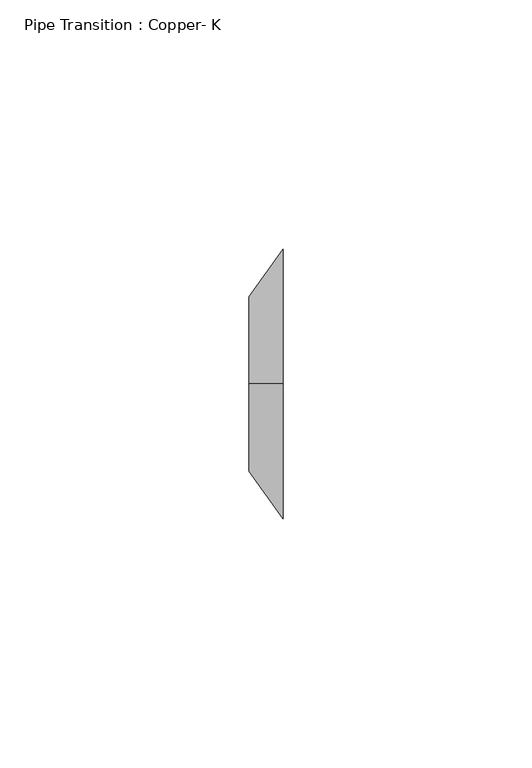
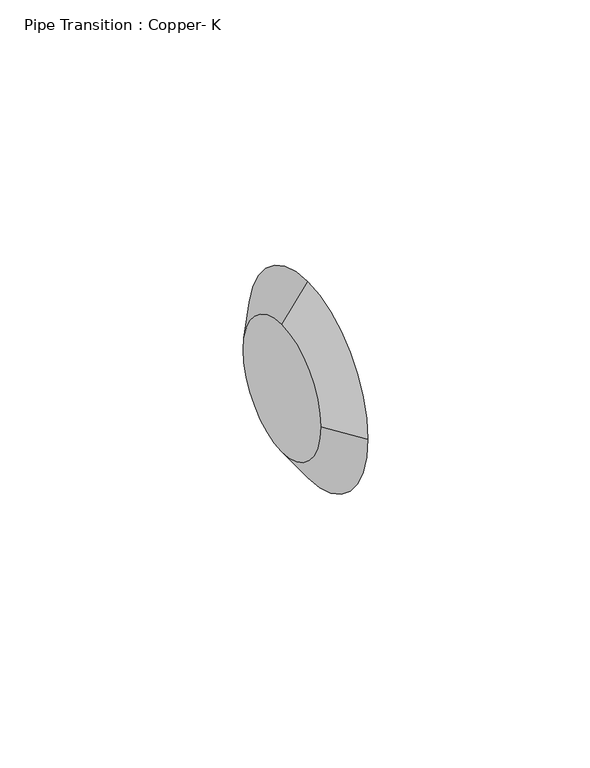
"""IFC4 building model written with IfcOpenShell, lengths in millimetres: pipe fitting geometry, Pipe Transition : Copper- K."""

from ifc_helpers import new_model, si_unit, frame, origin, place, context, project, spatial, polyline, circle_curve, source, transform, mapped, element, save
from ifc_brep_helpers import plane_surface, revolved_surface, advanced_brep


def pipe_transition_copper_k_b52e50c0(model_context):
    return source(origin(), model_context, "Body", "AdvancedBrep", [
        advanced_brep(
        [(6.746875, 0.0, 26.9875), (6.746875, -26.9875, 0.0), (6.746875, 0.0, -26.9875), (6.746875, 26.9875, 0.0), (0.0, 0.0, 17.4625), (0.0, 17.4625, 0.0), (0.0, 0.0, -17.4625), (0.0, -17.4625, 0.0)],
        [
            (0, 1, circle_curve(frame((6.746875, 0.0, 0.0), z_axis=(1.0, 0.0, 0.0), x_axis=(0.0, 0.0, 1.0)), 26.9875)),
            (1, 2, circle_curve(frame((6.746875, 0.0, 0.0), z_axis=(1.0, 0.0, 0.0), x_axis=(0.0, -1.0, 0.0)), 26.9875)),
            (2, 3, circle_curve(frame((6.746875, 0.0, 0.0), z_axis=(1.0, 0.0, 0.0), x_axis=(0.0, 0.0, -1.0)), 26.9875)),
            (3, 0, circle_curve(frame((6.746875, 0.0, 0.0), z_axis=(1.0, 0.0, 0.0), x_axis=(0.0, 1.0, 0.0)), 26.9875)),
            (4, 5, circle_curve(frame((0.0, 0.0, 0.0), z_axis=(-1.0, 0.0, 0.0), x_axis=(0.0, 1.0, 0.0)), 17.4625)),
            (5, 6, circle_curve(frame((0.0, 0.0, 0.0), z_axis=(-1.0, 0.0, 0.0), x_axis=(0.0, 0.0, -1.0)), 17.4625)),
            (6, 7, circle_curve(frame((0.0, 0.0, 0.0), z_axis=(-1.0, 0.0, 0.0), x_axis=(0.0, -1.0, 0.0)), 17.4625)),
            (7, 4, circle_curve(frame((0.0, 0.0, 0.0), z_axis=(-1.0, 0.0, 0.0), x_axis=(0.0, 0.0, 1.0)), 17.4625)),
            (7, 1),
            (0, 4),
            (6, 2),
            (5, 3),
        ],
        [
            plane_surface(frame((6.746875, 0.0, 0.0), z_axis=(1.0, 0.0, 0.0), x_axis=(0.0, -1.0, 0.0))),
            plane_surface(frame((0.0, 0.0, 0.0), z_axis=(-1.0, 0.0, 0.0), x_axis=(0.0, -1.0, 0.0))),
            revolved_surface(polyline([(0.0, -17.462499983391, 0.0), (6.746875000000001, -26.9875, 0.0)]), (-12.3692708, 0.0, 0.0), (1.0, 0.0, 0.0)),
            revolved_surface(polyline([(0.0, 0.0, -17.462499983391), (6.746875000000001, 0.0, -26.9875)]), (-12.3692708, 0.0, 0.0), (1.0, 0.0, 0.0)),
            revolved_surface(polyline([(0.0, 17.462499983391, 0.0), (6.746875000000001, 26.9875, 0.0)]), (-12.3692708, 0.0, 0.0), (1.0, 0.0, 0.0)),
            revolved_surface(polyline([(0.0, 0.0, 17.462499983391), (6.746875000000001, 0.0, 26.9875)]), (-12.3692708, 0.0, 0.0), (1.0, 0.0, 0.0)),
        ],
        [
            (0, [[1, 2, 3, 4]]),
            (1, [[5, 6, 7, 8]]),
            (2, [[-8, 9, -1, 10]]),
            (3, [[-7, 11, -2, -9]]),
            (4, [[-6, 12, -3, -11]]),
            (5, [[-5, -10, -4, -12]]),
        ],
    ),
        advanced_brep(
        [(6.746875, 0.0, 26.9875), (6.746875, -26.9875, 0.0), (6.746875, 0.0, -26.9875), (6.746875, 26.9875, 0.0), (0.0, 0.0, 17.4625), (0.0, 17.4625, 0.0), (0.0, 0.0, -17.4625), (0.0, -17.4625, 0.0)],
        [
            (0, 1, circle_curve(frame((6.746875, 0.0, 0.0), z_axis=(1.0, 0.0, -1.2427890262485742e-12), x_axis=(1.2428410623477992e-12, 0.0, 1.0)), 26.9875)),
            (1, 2, circle_curve(frame((6.746875, 0.0, 0.0), z_axis=(1.0, 0.0, -1.1926330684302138e-12), x_axis=(0.0, -1.0, 0.0)), 26.9875)),
            (2, 3, circle_curve(frame((6.746875, 0.0, 0.0), z_axis=(1.0, 0.0, -1.9352791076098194e-12), x_axis=(-1.9352130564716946e-12, 0.0, -1.0)), 26.9875)),
            (3, 0, circle_curve(frame((6.746875, 0.0, 0.0), z_axis=(1.0, 0.0, 0.0), x_axis=(0.0, 1.0, 0.0)), 26.9875)),
            (4, 5, circle_curve(frame((0.0, 0.0, 0.0), z_axis=(-1.0, 0.0, 0.0), x_axis=(0.0, 1.0, 0.0)), 17.4625)),
            (5, 6, circle_curve(frame((0.0, 0.0, 0.0), z_axis=(-1.0, 0.0, 1.9352791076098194e-12), x_axis=(-1.9352130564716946e-12, 0.0, -1.0)), 17.4625)),
            (6, 7, circle_curve(frame((0.0, 0.0, 0.0), z_axis=(-1.0, 0.0, 1.1926330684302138e-12), x_axis=(0.0, -1.0, 0.0)), 17.4625)),
            (7, 4, circle_curve(frame((0.0, 0.0, 0.0), z_axis=(-1.0, 0.0, 1.2427890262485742e-12), x_axis=(1.2428410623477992e-12, 0.0, 1.0)), 17.4625)),
            (7, 1),
            (0, 4),
            (6, 2),
            (5, 3),
        ],
        [
            plane_surface(frame((6.746875, 0.0, 0.0), z_axis=(1.0, 0.0, 0.0), x_axis=(0.0, -1.0, 0.0))),
            plane_surface(frame((0.0, 0.0, 0.0), z_axis=(-1.0, 0.0, 0.0), x_axis=(0.0, -1.0, 0.0))),
            revolved_surface(polyline([(-2.170175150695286e-11, -17.462499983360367, 0.0), (6.746875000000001, -26.9875, 0.0)]), (-12.3692708, 0.0, 0.0), (1.0, 0.0, -1.2427890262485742e-12)),
            revolved_surface(polyline([(-2.0827783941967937e-11, 0.0, -17.4624999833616), (6.746875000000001, 0.0, -26.9875)]), (-12.3692708, 0.0, 0.0), (1.0, 0.0, -1.1926330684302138e-12)),
            revolved_surface(polyline([(0.0, 17.462499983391, 0.0), (6.746875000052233, 26.987500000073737, 0.0)]), (-12.3692708, 0.0, 0.0), (1.0, 0.0, -1.9352791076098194e-12)),
            revolved_surface(polyline([(0.0, 0.0, 17.462499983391), (6.746875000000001, 0.0, 26.9875)]), (-12.3692708, 0.0, 0.0), (1.0, 0.0, 0.0)),
        ],
        [
            (0, [[1, 2, 3, 4]]),
            (1, [[5, 6, 7, 8]]),
            (2, [[-8, 9, -1, 10]]),
            (3, [[-7, 11, -2, -9]]),
            (4, [[-6, 12, -3, -11]]),
            (5, [[-5, -10, -4, -12]]),
        ],
    ),
    ])


if __name__ == "__main__":
    model = new_model("IFC4")
    model_context = context("Model", 3, world=origin())
    ifc_project = project(units=[si_unit("LENGTHUNIT", "METRE", prefix="MILLI")], contexts=[model_context])
    site = spatial("IfcSite", under=ifc_project)
    building = spatial("IfcBuilding", under=site)
    placement = place(None, origin())
    pipe_transition_copper_k_shape = pipe_transition_copper_k_b52e50c0(model_context)
    element("IfcPipeFitting", 1, ObjectType="Pipe Transition : Copper- K", at=placement, inside=building, context=model_context, shape_type="MappedRepresentation", body=[
        mapped(pipe_transition_copper_k_shape, transform((0.0, 0.0, 0.0), x_axis=(1.0, 0.0, 0.0), y_axis=(0.0, 1.0, 0.0), z_axis=(0.0, 0.0, 1.0))),
    ])
    save(model, "model.ifc")
